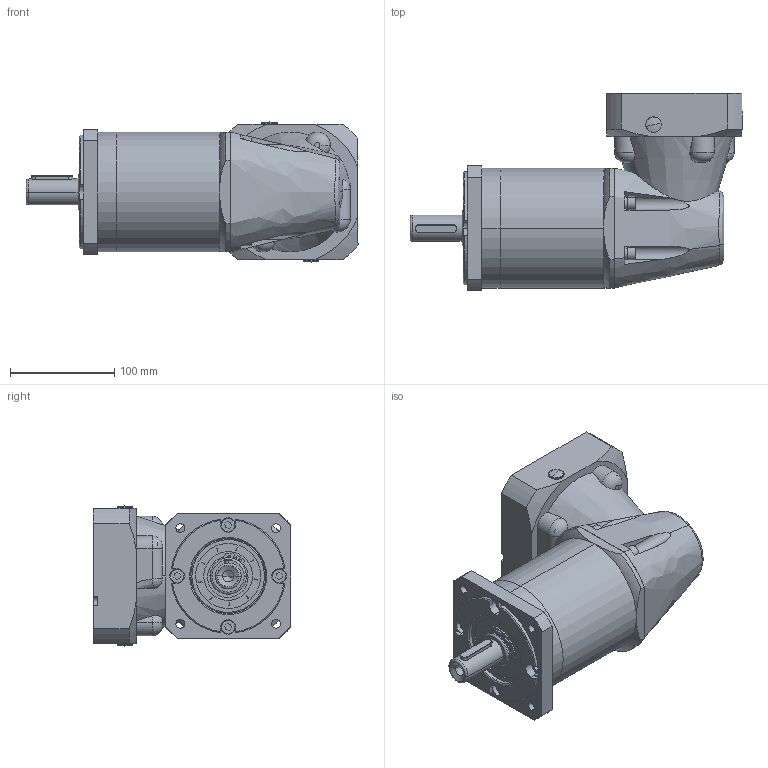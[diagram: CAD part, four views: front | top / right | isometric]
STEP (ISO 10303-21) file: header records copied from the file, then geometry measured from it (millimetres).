
FILE_DESCRIPTION (( 'STEP AP203' ), '1' );
FILE_NAME ('WPF115L3-i-P2-S2-24-58-110-145-M8.step', '2020-03-30T09:02:36', ( '个人用户' ), ( '微软中国' ), 'SwSTEP 2.0', 'SolidWorks 2018', '' );
FILE_SCHEMA (( 'CONFIG_CONTROL_DESIGN' ));
Length unit declared in the file: millimetre
Products named in the file (1): WPF115L3-i-P2-S2-24-58-110-145-M8
Bounding box: 319 x 189.5 x 134.6 mm (x, y, z)
Volume: 2071519 mm3; surface area: 434586.6 mm2
Topology: 38 solids, 38 shells, 1202 faces, 2846 edges, 1797 vertices
Faces by surface type: cylinder 425, plane 390, torus 154, cone 148, sphere 78, bspline 7
Entity records: 40477 total; most frequent: CARTESIAN_POINT 12098, DIRECTION 6284, ORIENTED_EDGE 5624, EDGE_CURVE 2812, AXIS2_PLACEMENT_3D 2583, VERTEX_POINT 1797, EDGE_LOOP 1399, CIRCLE 1387
